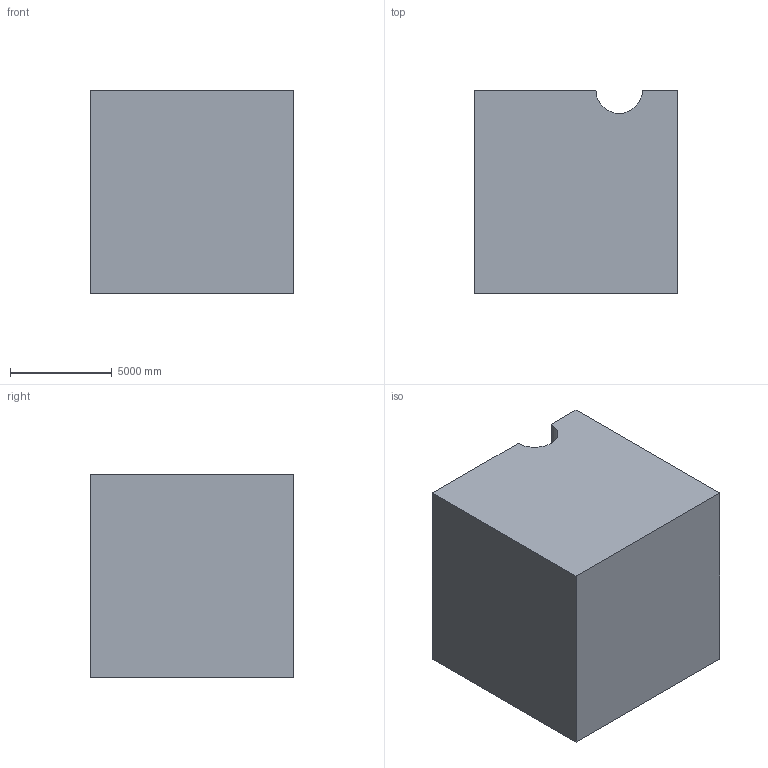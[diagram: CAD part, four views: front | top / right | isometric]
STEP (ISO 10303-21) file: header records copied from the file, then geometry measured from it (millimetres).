
FILE_DESCRIPTION (( 'STEP AP203' ), '1' );
FILE_NAME ('156.STEP', '2022-07-28T13:45:46', ( 'user' ), ( '' ), 'SwSTEP 2.0', 'SolidWorks 2021', '' );
FILE_SCHEMA (( 'CONFIG_CONTROL_DESIGN' ));
Length unit declared in the file: centimetre
Products named in the file (1): 156
Bounding box: 10000 x 10000 x 10000 mm (x, y, z)
Volume: 960698958812.4 mm3; surface area: 628473370.7 mm2
Topology: 1 solids, 1 shells, 13 faces, 30 edges, 20 vertices
Faces by surface type: plane 12, cylinder 1
Entity records: 443 total; most frequent: CARTESIAN_POINT 64, DIRECTION 60, ORIENTED_EDGE 60, EDGE_CURVE 30, LINE 28, VECTOR 28, VERTEX_POINT 20, AXIS2_PLACEMENT_3D 16
